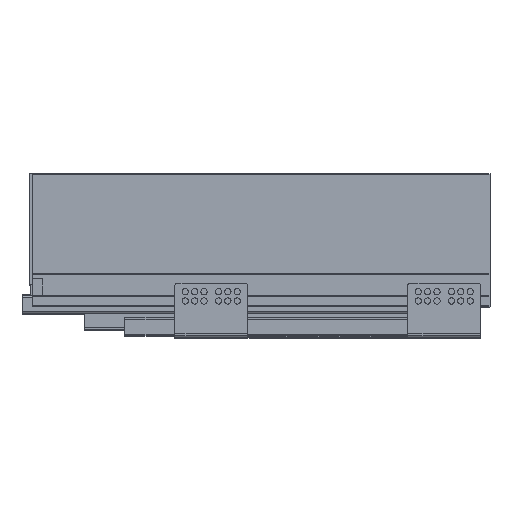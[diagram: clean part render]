
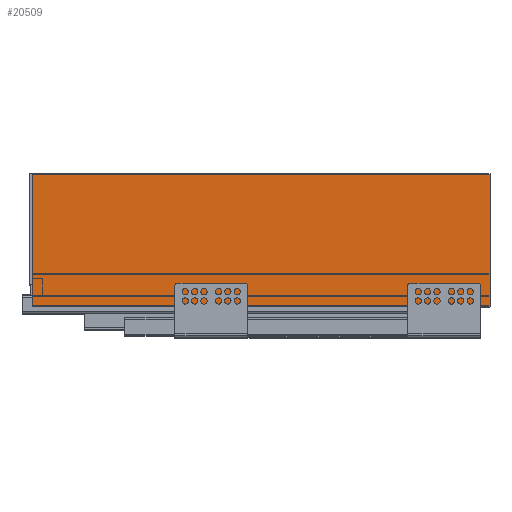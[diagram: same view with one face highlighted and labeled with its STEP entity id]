
A CAD part, top view. The second image highlights one B-rep face of the part: STEP entity #20509.
In plain terms, the highlighted planar face has unit normal (0, 0, 1).
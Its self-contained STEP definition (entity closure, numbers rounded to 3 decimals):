
#503=PLANE('',#21734);
#1360=FACE_OUTER_BOUND('',#2485,.T.);
#2485=EDGE_LOOP('',(#14367,#14368,#14369,#14370));
#4007=LINE('',#29531,#6352);
#4009=LINE('',#29535,#6354);
#4010=LINE('',#29537,#6355);
#4011=LINE('',#29538,#6356);
#6352=VECTOR('',#23817,10.);
#6354=VECTOR('',#23821,10.);
#6355=VECTOR('',#23822,10.);
#6356=VECTOR('',#23823,10.);
#9174=VERTEX_POINT('',#29528);
#9175=VERTEX_POINT('',#29530);
#9176=VERTEX_POINT('',#29534);
#9177=VERTEX_POINT('',#29536);
#11231=EDGE_CURVE('',#9174,#9175,#4007,.T.);
#11233=EDGE_CURVE('',#9174,#9176,#4009,.T.);
#11234=EDGE_CURVE('',#9176,#9177,#4010,.T.);
#11235=EDGE_CURVE('',#9177,#9175,#4011,.T.);
#14367=ORIENTED_EDGE('',*,*,#11233,.T.);
#14368=ORIENTED_EDGE('',*,*,#11234,.T.);
#14369=ORIENTED_EDGE('',*,*,#11235,.T.);
#14370=ORIENTED_EDGE('',*,*,#11231,.F.);
#20509=ADVANCED_FACE('',(#1360),#503,.F.);
#21734=AXIS2_PLACEMENT_3D('',#29533,#23819,#23820);
#23817=DIRECTION('',(1.,0.,0.));
#23819=DIRECTION('center_axis',(0.,0.,-1.));
#23820=DIRECTION('ref_axis',(0.,1.,0.));
#23821=DIRECTION('',(0.,-1.,0.));
#23822=DIRECTION('',(1.,0.,0.));
#23823=DIRECTION('',(0.,1.,0.));
#29528=CARTESIAN_POINT('',(0.,128.,535.));
#29530=CARTESIAN_POINT('',(440.,128.,535.));
#29531=CARTESIAN_POINT('',(0.,128.,535.));
#29533=CARTESIAN_POINT('Origin',(0.,0.,535.));
#29534=CARTESIAN_POINT('',(0.,0.,535.));
#29535=CARTESIAN_POINT('',(0.,128.,535.));
#29536=CARTESIAN_POINT('',(440.,0.,535.));
#29537=CARTESIAN_POINT('',(0.,0.,535.));
#29538=CARTESIAN_POINT('',(440.,128.,535.));
